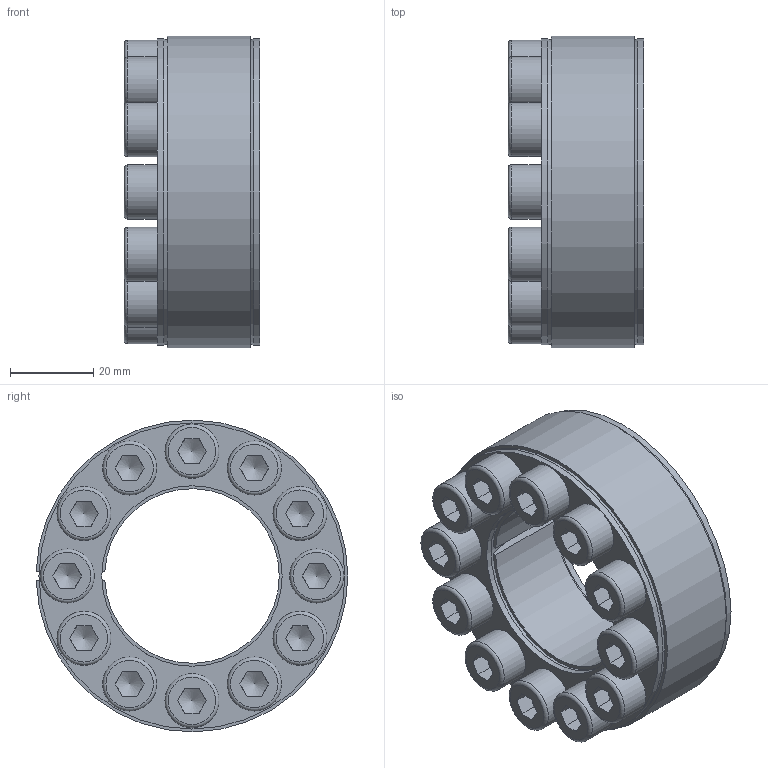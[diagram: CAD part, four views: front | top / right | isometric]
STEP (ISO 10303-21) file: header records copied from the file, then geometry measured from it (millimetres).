
FILE_DESCRIPTION(/* description */ (''),/* implementation_level */ '2;1');
FILE_NAME(/* name */ 'C:\Users\stagistacad\Desktop\stagista 2k17\06400042 3D Assieme.stp',/* time_stamp */ '2017-12-06T16:58:57+01:00',/* author */ ('stagistacad'),/* organization */ (''),/* preprocessor_version */ 'ST-DEVELOPER v15.6',/* originating_system */ 'Autodesk Inventor 2015',/* authorisation */ '');
FILE_SCHEMA (('AUTOMOTIVE_DESIGN { 1 0 10303 214 3 1 1 }'));
Length unit declared in the file: millimetre
Products named in the file (5): 06400042 3D parte centrale; 06400042 3D parte inferiore; 06400042 3D parte superiore; ANSI B18.3.1M - M8x1,25 x 20(1); 06400042 3D Assieme
Bounding box: 32.64 x 74.99 x 74.99 mm (x, y, z)
Volume: 71416.2 mm3; surface area: 49659.3 mm2
Topology: 16 solids, 16 shells, 240 faces, 544 edges, 352 vertices
Faces by surface type: plane 124, cylinder 60, cone 32, torus 24
Full cylindrical faces by diameter (mm): 8 x24, 8.5 x12, 10 x4, 13 x12, 43.398 x2, 73.62 x2
Entity records: 2277 total; most frequent: DIRECTION 392, CARTESIAN_POINT 363, ORIENTED_EDGE 258, AXIS2_PLACEMENT_3D 182, EDGE_LOOP 174, EDGE_CURVE 129, VERTEX_POINT 111, FACE_BOUND 99
